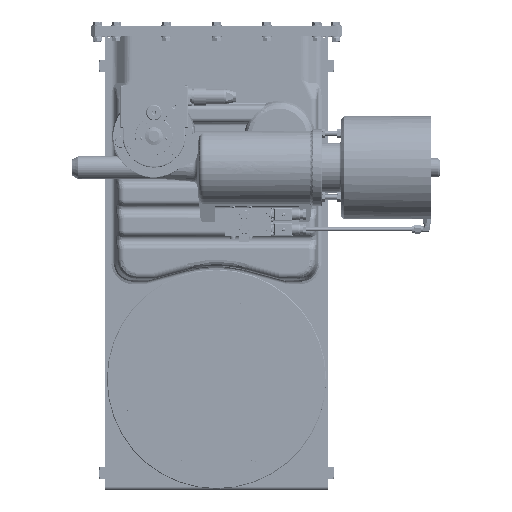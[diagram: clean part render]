
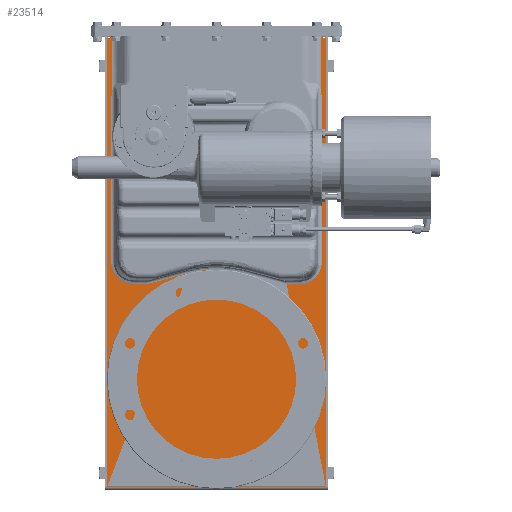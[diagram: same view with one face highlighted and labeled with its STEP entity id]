
A CAD part, top view. The second image highlights one B-rep face of the part: STEP entity #23514.
In plain terms, the highlighted planar face has unit normal (0, 0, 1) as drawn and (0, 1, 0) by its records, which use the part's own axes.
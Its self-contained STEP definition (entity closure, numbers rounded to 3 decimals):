
#9280=B_SPLINE_CURVE_WITH_KNOTS('',3,(#104308,#104309,#104310,#104311,#104312,
#104313,#104314),.UNSPECIFIED.,.F.,.F.,(4,3,4),(0.,0.968,1.),
 .UNSPECIFIED.);
#9281=B_SPLINE_CURVE_WITH_KNOTS('',3,(#104318,#104319,#104320,#104321,#104322,
#104323,#104324,#104325,#104326,#104327),.UNSPECIFIED.,.F.,.F.,(4,2,2,2,
4),(0.,0.25,0.5,0.75,1.),.UNSPECIFIED.);
#9282=B_SPLINE_CURVE_WITH_KNOTS('',3,(#104333,#104334,#104335,#104336,#104337,
#104338),.UNSPECIFIED.,.F.,.F.,(4,2,4),(0.,0.5,1.),.UNSPECIFIED.);
#9283=B_SPLINE_CURVE_WITH_KNOTS('',3,(#104344,#104345,#104346,#104347,#104348,
#104349,#104350,#104351,#104352,#104353),.UNSPECIFIED.,.F.,.F.,(4,2,2,2,
4),(0.,0.25,0.5,0.75,1.),.UNSPECIFIED.);
#9284=B_SPLINE_CURVE_WITH_KNOTS('',3,(#104357,#104358,#104359,#104360,#104361,
#104362,#104363),.UNSPECIFIED.,.F.,.F.,(4,3,4),(0.,0.018,1.),
 .UNSPECIFIED.);
#12094=LINE('',#104282,#15253);
#12098=LINE('',#104294,#15257);
#12099=LINE('',#104297,#15258);
#12100=LINE('',#104298,#15259);
#12101=LINE('',#104300,#15260);
#12102=LINE('',#104302,#15261);
#12103=LINE('',#104304,#15262);
#12104=LINE('',#104306,#15263);
#12105=LINE('',#104316,#15264);
#12106=LINE('',#104329,#15265);
#12107=LINE('',#104331,#15266);
#12108=LINE('',#104340,#15267);
#12109=LINE('',#104342,#15268);
#12110=LINE('',#104355,#15269);
#12111=LINE('',#104365,#15270);
#12112=LINE('',#104367,#15271);
#12113=LINE('',#104369,#15272);
#15253=VECTOR('',#74474,1.);
#15257=VECTOR('',#74486,1.);
#15258=VECTOR('',#74487,1.);
#15259=VECTOR('',#74488,1.);
#15260=VECTOR('',#74489,1.);
#15261=VECTOR('',#74490,1.);
#15262=VECTOR('',#74491,1.);
#15263=VECTOR('',#74492,1.);
#15264=VECTOR('',#74493,1.);
#15265=VECTOR('',#74494,1.);
#15266=VECTOR('',#74495,1.);
#15267=VECTOR('',#74496,1.);
#15268=VECTOR('',#74497,1.);
#15269=VECTOR('',#74498,1.);
#15270=VECTOR('',#74499,1.);
#15271=VECTOR('',#74500,1.);
#15272=VECTOR('',#74501,1.);
#18721=PLANE('',#63309);
#20522=FACE_OUTER_BOUND('',#31118,.T.);
#23514=ADVANCED_FACE('',(#20522),#18721,.T.);
#31118=EDGE_LOOP('',(#41161,#41162,#41163,#41164,#41165,#41166,#41167,#41168,
#41169,#41170,#41171,#41172,#41173,#41174,#41175,#41176,#41177,#41178,#41179,
#41180,#41181,#41182));
#41161=ORIENTED_EDGE('',*,*,#54977,.F.);
#41162=ORIENTED_EDGE('',*,*,#54978,.T.);
#41163=ORIENTED_EDGE('',*,*,#54971,.T.);
#41164=ORIENTED_EDGE('',*,*,#54979,.F.);
#41165=ORIENTED_EDGE('',*,*,#54980,.F.);
#41166=ORIENTED_EDGE('',*,*,#54981,.F.);
#41167=ORIENTED_EDGE('',*,*,#54982,.F.);
#41168=ORIENTED_EDGE('',*,*,#54983,.T.);
#41169=ORIENTED_EDGE('',*,*,#54984,.T.);
#41170=ORIENTED_EDGE('',*,*,#54985,.T.);
#41171=ORIENTED_EDGE('',*,*,#54986,.T.);
#41172=ORIENTED_EDGE('',*,*,#54987,.T.);
#41173=ORIENTED_EDGE('',*,*,#54988,.T.);
#41174=ORIENTED_EDGE('',*,*,#54989,.T.);
#41175=ORIENTED_EDGE('',*,*,#54990,.T.);
#41176=ORIENTED_EDGE('',*,*,#54991,.T.);
#41177=ORIENTED_EDGE('',*,*,#54992,.T.);
#41178=ORIENTED_EDGE('',*,*,#54993,.T.);
#41179=ORIENTED_EDGE('',*,*,#54994,.T.);
#41180=ORIENTED_EDGE('',*,*,#54995,.T.);
#41181=ORIENTED_EDGE('',*,*,#54996,.F.);
#41182=ORIENTED_EDGE('',*,*,#54997,.F.);
#49033=VERTEX_POINT('',#104283);
#49034=VERTEX_POINT('',#104284);
#49037=VERTEX_POINT('',#104295);
#49038=VERTEX_POINT('',#104296);
#49039=VERTEX_POINT('',#104299);
#49040=VERTEX_POINT('',#104301);
#49041=VERTEX_POINT('',#104303);
#49042=VERTEX_POINT('',#104305);
#49043=VERTEX_POINT('',#104307);
#49044=VERTEX_POINT('',#104315);
#49045=VERTEX_POINT('',#104317);
#49046=VERTEX_POINT('',#104328);
#49047=VERTEX_POINT('',#104330);
#49048=VERTEX_POINT('',#104332);
#49049=VERTEX_POINT('',#104339);
#49050=VERTEX_POINT('',#104341);
#49051=VERTEX_POINT('',#104343);
#49052=VERTEX_POINT('',#104354);
#49053=VERTEX_POINT('',#104356);
#49054=VERTEX_POINT('',#104364);
#49055=VERTEX_POINT('',#104366);
#49056=VERTEX_POINT('',#104368);
#54971=EDGE_CURVE('',#49033,#49034,#12094,.T.);
#54977=EDGE_CURVE('',#49037,#49038,#12098,.T.);
#54978=EDGE_CURVE('',#49037,#49033,#12099,.T.);
#54979=EDGE_CURVE('',#49039,#49034,#12100,.T.);
#54980=EDGE_CURVE('',#49040,#49039,#12101,.T.);
#54981=EDGE_CURVE('',#49041,#49040,#12102,.T.);
#54982=EDGE_CURVE('',#49042,#49041,#12103,.T.);
#54983=EDGE_CURVE('',#49042,#49043,#12104,.T.);
#54984=EDGE_CURVE('',#49043,#49044,#9280,.T.);
#54985=EDGE_CURVE('',#49044,#49045,#12105,.T.);
#54986=EDGE_CURVE('',#49045,#49046,#9281,.T.);
#54987=EDGE_CURVE('',#49046,#49047,#12106,.T.);
#54988=EDGE_CURVE('',#49047,#49048,#12107,.T.);
#54989=EDGE_CURVE('',#49048,#49049,#9282,.T.);
#54990=EDGE_CURVE('',#49049,#49050,#12108,.T.);
#54991=EDGE_CURVE('',#49050,#49051,#12109,.T.);
#54992=EDGE_CURVE('',#49051,#49052,#9283,.T.);
#54993=EDGE_CURVE('',#49052,#49053,#12110,.T.);
#54994=EDGE_CURVE('',#49053,#49054,#9284,.T.);
#54995=EDGE_CURVE('',#49054,#49055,#12111,.T.);
#54996=EDGE_CURVE('',#49056,#49055,#12112,.T.);
#54997=EDGE_CURVE('',#49038,#49056,#12113,.T.);
#63309=AXIS2_PLACEMENT_3D('',#104370,#74502,#74503);
#74474=DIRECTION('',(0.,0.,1.));
#74486=DIRECTION('',(0.,0.,1.));
#74487=DIRECTION('',(-1.,0.,0.001));
#74488=DIRECTION('',(-1.,0.,-0.001));
#74489=DIRECTION('',(0.,0.,1.));
#74490=DIRECTION('',(-1.,0.,0.));
#74491=DIRECTION('',(0.,0.,1.));
#74492=DIRECTION('',(-1.,0.,0.));
#74493=DIRECTION('',(-1.,0.,0.));
#74494=DIRECTION('',(0.,0.,-1.));
#74495=DIRECTION('',(0.259,0.,-0.966));
#74496=DIRECTION('',(-0.259,0.,-0.966));
#74497=DIRECTION('',(0.,0.,-1.));
#74498=DIRECTION('',(1.,0.,0.));
#74499=DIRECTION('',(1.,0.,0.));
#74500=DIRECTION('',(0.,0.,1.));
#74501=DIRECTION('',(1.,0.,0.));
#74502=DIRECTION('',(0.,1.,0.));
#74503=DIRECTION('',(-1.,0.,0.));
#104282=CARTESIAN_POINT('',(-718.,2.5,-175.25));
#104283=CARTESIAN_POINT('',(-718.,2.5,-174.506));
#104284=CARTESIAN_POINT('',(-718.,2.5,174.506));
#104294=CARTESIAN_POINT('',(-2.,2.5,-175.25));
#104295=CARTESIAN_POINT('',(-2.,2.5,-175.25));
#104296=CARTESIAN_POINT('',(-2.,2.5,-170.5));
#104297=CARTESIAN_POINT('',(0.,2.5,-175.252));
#104298=CARTESIAN_POINT('',(-0.364,2.5,175.252));
#104299=CARTESIAN_POINT('',(-2.,2.5,175.25));
#104300=CARTESIAN_POINT('',(-2.,2.5,-175.25));
#104301=CARTESIAN_POINT('',(-2.,2.5,170.5));
#104302=CARTESIAN_POINT('',(0.,2.5,170.5));
#104303=CARTESIAN_POINT('',(0.,2.5,170.5));
#104304=CARTESIAN_POINT('',(0.,2.5,-175.35));
#104305=CARTESIAN_POINT('',(0.,2.5,167.382));
#104306=CARTESIAN_POINT('',(0.,2.5,167.382));
#104307=CARTESIAN_POINT('',(-93.36,2.5,167.382));
#104308=CARTESIAN_POINT('',(-93.36,2.5,167.382));
#104309=CARTESIAN_POINT('',(-94.672,2.5,167.536));
#104310=CARTESIAN_POINT('',(-95.985,2.5,167.675));
#104311=CARTESIAN_POINT('',(-97.298,2.5,167.81));
#104312=CARTESIAN_POINT('',(-97.343,2.5,167.815));
#104313=CARTESIAN_POINT('',(-97.387,2.5,167.819));
#104314=CARTESIAN_POINT('',(-97.431,2.5,167.824));
#104315=CARTESIAN_POINT('',(-97.431,2.5,167.824));
#104316=CARTESIAN_POINT('',(0.,2.5,167.824));
#104317=CARTESIAN_POINT('',(-360.055,2.5,167.824));
#104318=CARTESIAN_POINT('',(-360.055,2.5,167.824));
#104319=CARTESIAN_POINT('',(-364.742,2.5,167.824));
#104320=CARTESIAN_POINT('',(-369.433,2.5,166.9));
#104321=CARTESIAN_POINT('',(-378.083,2.5,163.282));
#104322=CARTESIAN_POINT('',(-382.036,2.5,160.588));
#104323=CARTESIAN_POINT('',(-388.567,2.5,153.861));
#104324=CARTESIAN_POINT('',(-391.143,2.5,149.836));
#104325=CARTESIAN_POINT('',(-394.584,2.5,141.114));
#104326=CARTESIAN_POINT('',(-395.452,2.5,136.422));
#104327=CARTESIAN_POINT('',(-395.452,2.5,131.735));
#104328=CARTESIAN_POINT('',(-395.452,2.5,131.735));
#104329=CARTESIAN_POINT('',(-395.452,2.5,-175.25));
#104330=CARTESIAN_POINT('',(-395.452,2.5,112.089));
#104331=CARTESIAN_POINT('',(-377.571,2.5,45.358));
#104332=CARTESIAN_POINT('',(-377.571,2.5,45.358));
#104333=CARTESIAN_POINT('',(-377.571,2.5,45.358));
#104334=CARTESIAN_POINT('',(-373.658,2.5,30.754));
#104335=CARTESIAN_POINT('',(-371.6,2.5,15.381));
#104336=CARTESIAN_POINT('',(-371.6,2.5,-15.381));
#104337=CARTESIAN_POINT('',(-373.658,2.5,-30.754));
#104338=CARTESIAN_POINT('',(-377.571,2.5,-45.358));
#104339=CARTESIAN_POINT('',(-377.571,2.5,-45.358));
#104340=CARTESIAN_POINT('',(-377.571,2.5,-45.358));
#104341=CARTESIAN_POINT('',(-395.452,2.5,-112.089));
#104342=CARTESIAN_POINT('',(-395.452,2.5,-175.25));
#104343=CARTESIAN_POINT('',(-395.452,2.5,-131.735));
#104344=CARTESIAN_POINT('',(-395.452,2.5,-131.735));
#104345=CARTESIAN_POINT('',(-395.452,2.5,-136.422));
#104346=CARTESIAN_POINT('',(-394.584,2.5,-141.114));
#104347=CARTESIAN_POINT('',(-391.143,2.5,-149.836));
#104348=CARTESIAN_POINT('',(-388.567,2.5,-153.862));
#104349=CARTESIAN_POINT('',(-382.035,2.5,-160.588));
#104350=CARTESIAN_POINT('',(-378.083,2.5,-163.283));
#104351=CARTESIAN_POINT('',(-369.433,2.5,-166.9));
#104352=CARTESIAN_POINT('',(-364.742,2.5,-167.824));
#104353=CARTESIAN_POINT('',(-360.055,2.5,-167.824));
#104354=CARTESIAN_POINT('',(-360.055,2.5,-167.824));
#104355=CARTESIAN_POINT('',(0.,2.5,-167.824));
#104356=CARTESIAN_POINT('',(-97.431,2.5,-167.824));
#104357=CARTESIAN_POINT('',(-97.431,2.5,-167.824));
#104358=CARTESIAN_POINT('',(-97.406,2.5,-167.821));
#104359=CARTESIAN_POINT('',(-97.382,2.5,-167.819));
#104360=CARTESIAN_POINT('',(-97.358,2.5,-167.816));
#104361=CARTESIAN_POINT('',(-96.025,2.5,-167.679));
#104362=CARTESIAN_POINT('',(-94.692,2.5,-167.538));
#104363=CARTESIAN_POINT('',(-93.361,2.5,-167.382));
#104364=CARTESIAN_POINT('',(-93.361,2.5,-167.382));
#104365=CARTESIAN_POINT('',(0.,2.5,-167.382));
#104366=CARTESIAN_POINT('',(0.,2.5,-167.382));
#104367=CARTESIAN_POINT('',(0.,2.5,-175.35));
#104368=CARTESIAN_POINT('',(0.,2.5,-170.5));
#104369=CARTESIAN_POINT('',(0.,2.5,-170.5));
#104370=CARTESIAN_POINT('',(0.,2.5,-175.25));
